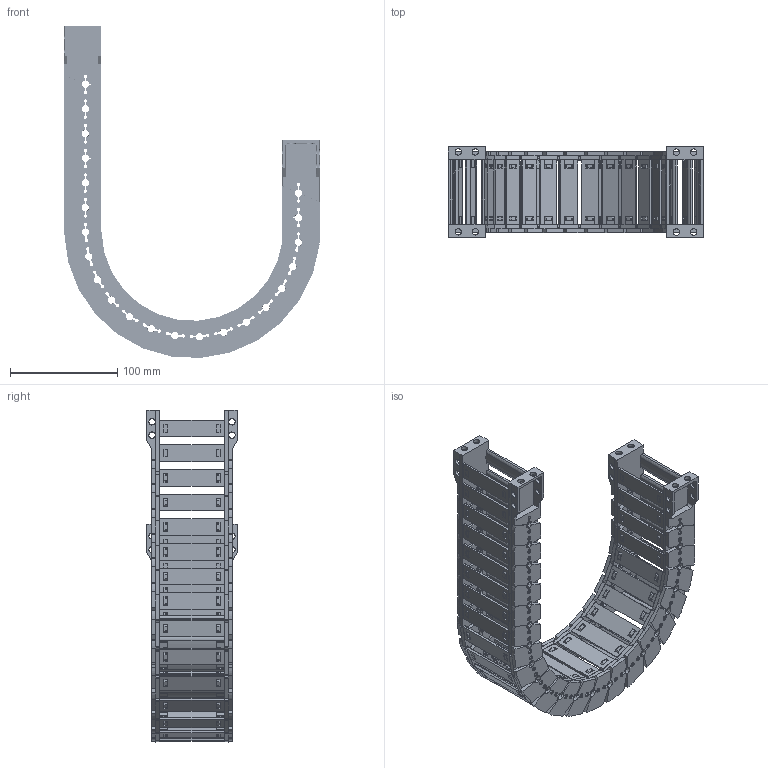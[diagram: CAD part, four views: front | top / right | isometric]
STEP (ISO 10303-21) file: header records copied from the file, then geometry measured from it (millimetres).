
FILE_DESCRIPTION(/* description */ (''),/* implementation_level */ '2;1');
FILE_NAME(/* name */ 'JY28-60-R100.stp',/* time_stamp */ '2026-06-03T15:39:11+08:00',/* author */ (''),/* organization */ (''),/* preprocessor_version */ 'ST-DEVELOPER v19.4',/* originating_system */ 'SIEMENS PLM Software NX2306.5001',/* authorisation */ '');
FILE_SCHEMA (('AP203_CONFIGURATION_CONTROLLED_3D_DESIGN_OF_MECHANICAL_PARTS_AND_ASSEMBLIES_MIM_LF { 1 0 10303 403 2 1 2}'));
Products named in the file (1): 简化图纸_objects
Bounding box: 238.21 x 84.5 x 309.61 mm (x, y, z)
Volume: 395282.9 mm3; surface area: 288085.7 mm2
Topology: 86 solids, 86 shells, 7166 faces, 20384 edges, 13324 vertices
Faces by surface type: plane 4694, cone 1300, cylinder 1128, bspline 42, torus 2
Full cylindrical faces by diameter (mm): 6 x24
Entity records: 242416 total; most frequent: CARTESIAN_POINT 53852, ORIENTED_EDGE 40676, DIRECTION 38192, EDGE_CURVE 20338, LINE 13462, VECTOR 13462, VERTEX_POINT 13302, AXIS2_PLACEMENT_3D 12365
